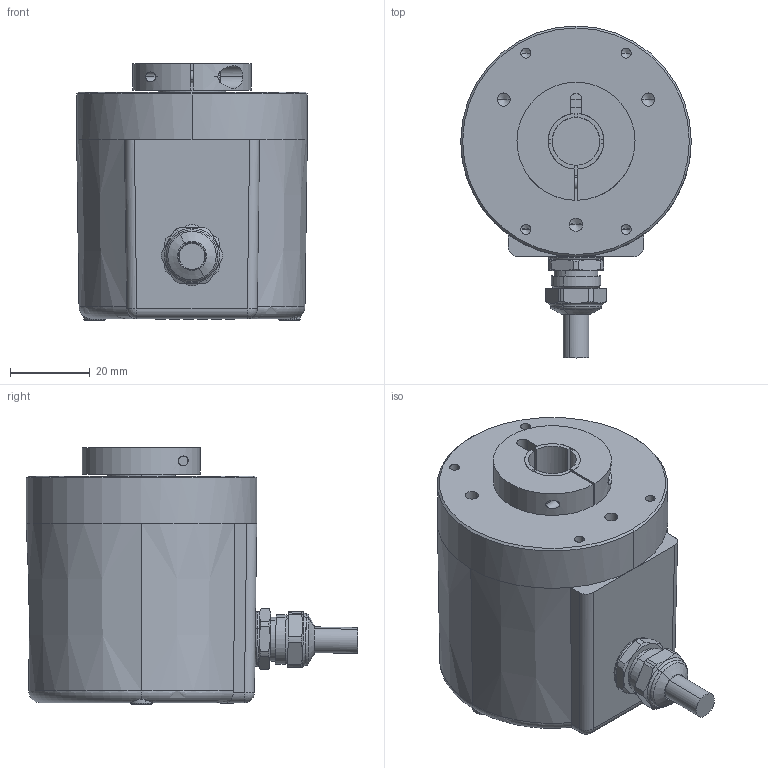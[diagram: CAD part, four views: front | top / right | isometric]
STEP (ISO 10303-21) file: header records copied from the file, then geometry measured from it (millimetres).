
FILE_DESCRIPTION (( 'STEP AP203' ), '1' );
FILE_NAME ('E58HS-ANA-151##-##-NC.STEP', '2023-06-26T09:35:01', ( '' ), ( '' ), 'SwSTEP 2.0', 'SolidWorks 2021', '' );
FILE_SCHEMA (( 'CONFIG_CONTROL_DESIGN' ));
Length unit declared in the file: millimetre
Products named in the file (1): E58HS-ANA-151##-##-NC
Bounding box: 58 x 83.44 x 64.5 mm (x, y, z)
Volume: 152893.9 mm3; surface area: 22554.7 mm2
Topology: 5 solids, 11 shells, 391 faces, 943 edges, 579 vertices
Faces by surface type: plane 194, cylinder 105, cone 61, torus 29, sphere 2
Entity records: 11663 total; most frequent: CARTESIAN_POINT 2422, DIRECTION 1964, ORIENTED_EDGE 1846, EDGE_CURVE 923, AXIS2_PLACEMENT_3D 707, VERTEX_POINT 579, LINE 550, VECTOR 550
